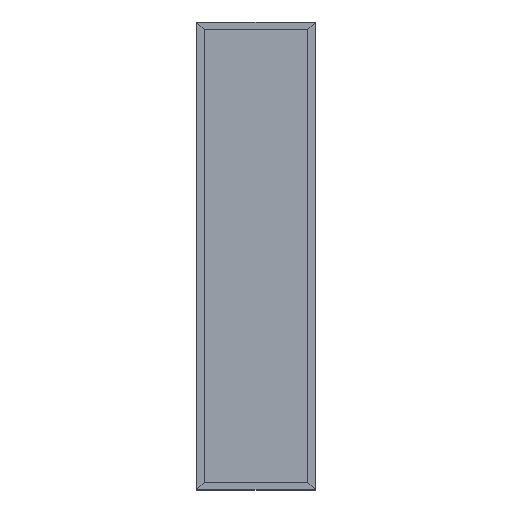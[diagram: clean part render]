
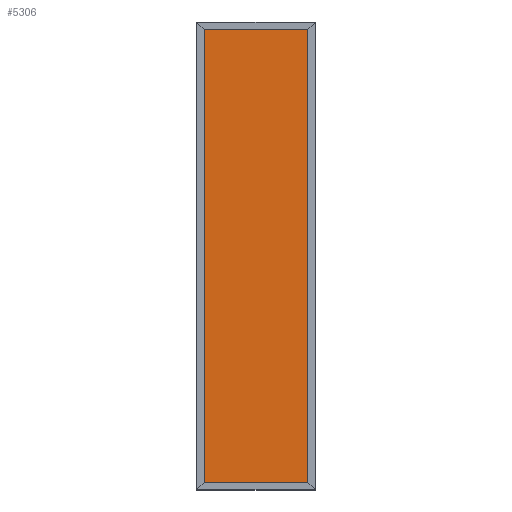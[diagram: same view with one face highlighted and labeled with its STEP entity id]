
A CAD part, top view. The second image highlights one B-rep face of the part: STEP entity #5306.
In plain terms, the highlighted planar face has unit normal (0, 0, 1).
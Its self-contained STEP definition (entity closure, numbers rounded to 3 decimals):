
#517 = CARTESIAN_POINT ( 'NONE',  ( 0., 1162.2, -13.25 ) ) ;
#536 = FACE_OUTER_BOUND ( 'NONE', #6710, .T. ) ;
#930 = LINE ( 'NONE', #14005, #8251 ) ;
#1555 = VERTEX_POINT ( 'NONE', #9644 ) ;
#1823 = LINE ( 'NONE', #7605, #16105 ) ;
#2208 = CARTESIAN_POINT ( 'NONE',  ( 267.075, 0., -13.25 ) ) ;
#3728 = VERTEX_POINT ( 'NONE', #6947 ) ;
#4668 = VERTEX_POINT ( 'NONE', #9941 ) ;
#5228 = LINE ( 'NONE', #2208, #13309 ) ;
#5306 = ADVANCED_FACE ( 'NONE', ( #536 ), #7834, .F. ) ;
#5632 = VERTEX_POINT ( 'NONE', #7302 ) ;
#6710 = EDGE_LOOP ( 'NONE', ( #17311, #10332, #13471, #9494 ) ) ;
#6848 = DIRECTION ( 'NONE',  ( 0., 1., 0. ) ) ;
#6947 = CARTESIAN_POINT ( 'NONE',  ( 267.075, -1162.2, -13.25 ) ) ;
#7238 = EDGE_CURVE ( 'NONE', #3728, #1555, #930, .T. ) ;
#7302 = CARTESIAN_POINT ( 'NONE',  ( 267.075, 1162.2, -13.25 ) ) ;
#7605 = CARTESIAN_POINT ( 'NONE',  ( -267.075, 0., -13.25 ) ) ;
#7834 = PLANE ( 'NONE',  #11686 ) ;
#8251 = VECTOR ( 'NONE', #9852, 1000. ) ;
#8417 = EDGE_CURVE ( 'NONE', #1555, #4668, #1823, .T. ) ;
#9494 = ORIENTED_EDGE ( 'NONE', *, *, #8417, .F. ) ;
#9581 = EDGE_CURVE ( 'NONE', #5632, #4668, #13208, .T. ) ;
#9644 = CARTESIAN_POINT ( 'NONE',  ( -267.075, -1162.2, -13.25 ) ) ;
#9852 = DIRECTION ( 'NONE',  ( -1., 0., 0. ) ) ;
#9941 = CARTESIAN_POINT ( 'NONE',  ( -267.075, 1162.2, -13.25 ) ) ;
#10332 = ORIENTED_EDGE ( 'NONE', *, *, #16755, .T. ) ;
#11686 = AXIS2_PLACEMENT_3D ( 'NONE', #12074, #12275, #16458 ) ;
#12074 = CARTESIAN_POINT ( 'NONE',  ( 0., 0., -13.25 ) ) ;
#12275 = DIRECTION ( 'NONE',  ( 0., 0., -1. ) ) ;
#13208 = LINE ( 'NONE', #517, #13998 ) ;
#13309 = VECTOR ( 'NONE', #6848, 1000. ) ;
#13471 = ORIENTED_EDGE ( 'NONE', *, *, #9581, .T. ) ;
#13998 = VECTOR ( 'NONE', #17482, 1000. ) ;
#14005 = CARTESIAN_POINT ( 'NONE',  ( 0., -1162.2, -13.25 ) ) ;
#16105 = VECTOR ( 'NONE', #17761, 1000. ) ;
#16458 = DIRECTION ( 'NONE',  ( -1., 0., 0. ) ) ;
#16755 = EDGE_CURVE ( 'NONE', #3728, #5632, #5228, .T. ) ;
#17311 = ORIENTED_EDGE ( 'NONE', *, *, #7238, .F. ) ;
#17482 = DIRECTION ( 'NONE',  ( -1., 0., 0. ) ) ;
#17761 = DIRECTION ( 'NONE',  ( 0., 1., 0. ) ) ;
